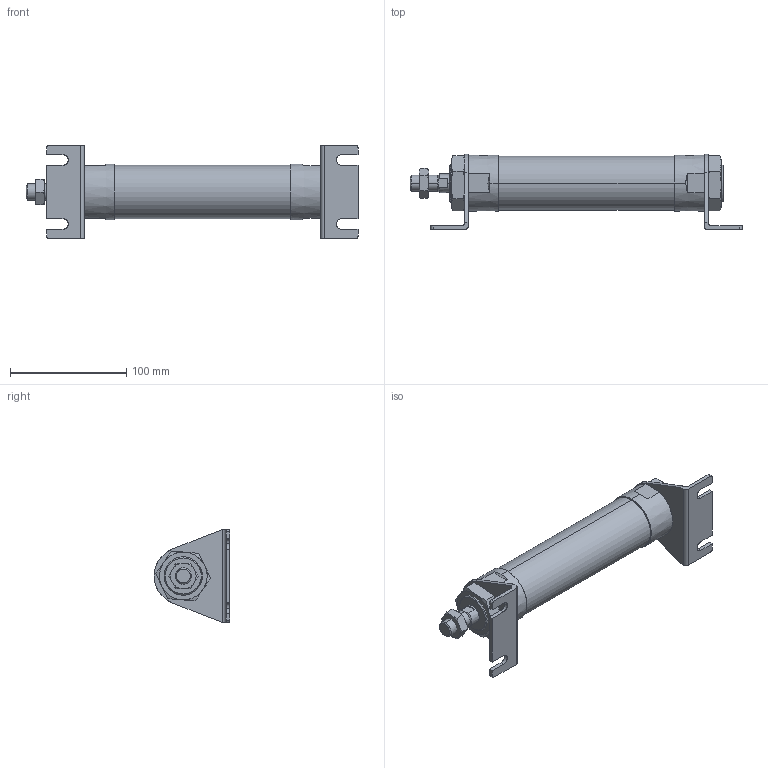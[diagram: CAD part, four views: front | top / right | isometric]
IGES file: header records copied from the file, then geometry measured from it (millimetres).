
Start section: SolidWorks IGES file using analytic representation for surfaces
Global section: file name: C:\Users\Toshiba\Desktop\J#2-40-100-L.IGS; native system: SolidWorks 2014; preprocessor: SolidWorks 2014; author: Toshiba; date: 160310.090554; units: millimetre
Bounding box: 285.2 x 65 x 80 mm (x, y, z)
Surface area: 71037.8 mm2 (no closed solid volume)
Topology: 0 solids, 0 shells, 170 faces, 3118 edges, 3114 vertices
Faces by surface type: bspline 107, revolution 63
